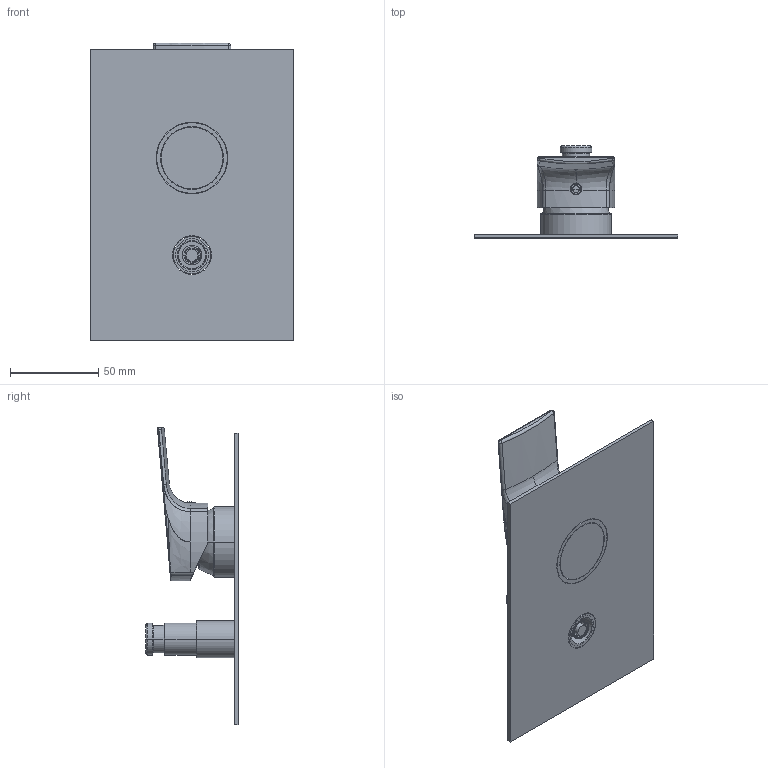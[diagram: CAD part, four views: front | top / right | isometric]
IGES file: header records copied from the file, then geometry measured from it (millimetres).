
Start section:  PTC IGES file: 3d_sw0001.igs
Global section: file name: 3d_sw0001.igs; native system: Creo Parametric by PTC Inc.; preprocessor: 2022014; author: volponeff; organization: Unknown; date: 20241008.090835; units: millimetre
Bounding box: 115 x 52.1 x 168.5 mm (x, y, z)
Surface area: 66591.7 mm2 (no closed solid volume)
Topology: 0 solids, 0 shells, 300 faces, 1403 edges, 1401 vertices
Faces by surface type: revolution 165, bspline 135
